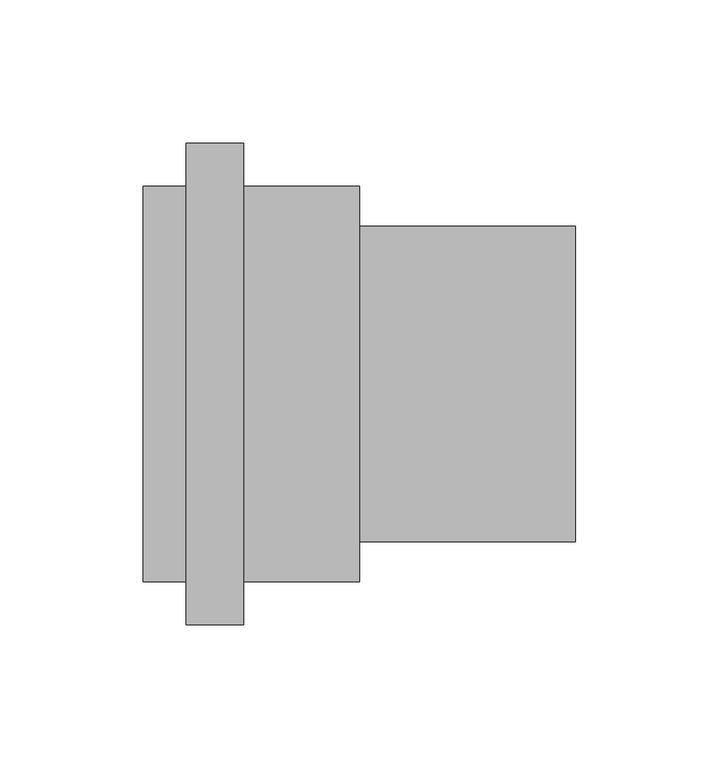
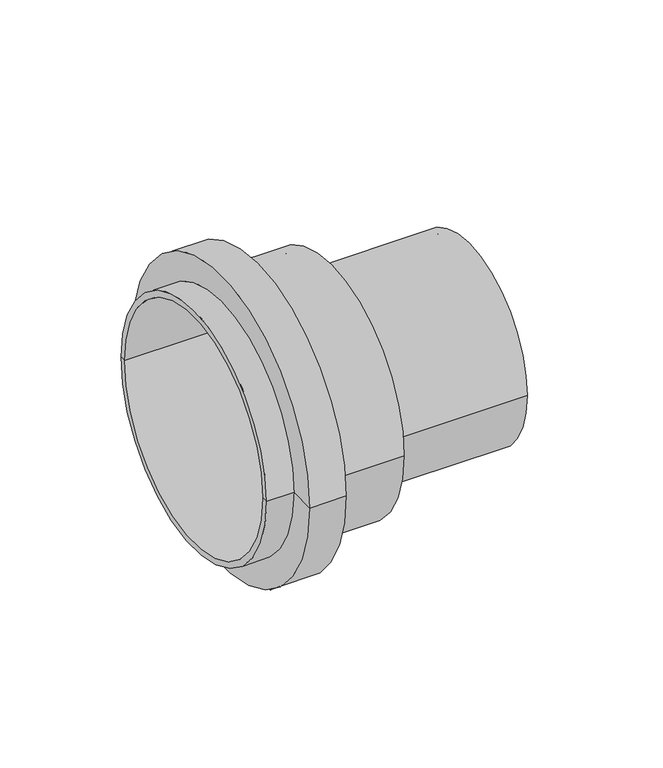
"""IFC4 building model written with IfcOpenShell, lengths in millimetres: pipe fitting geometry, OSMA_KG2000_PPKGUS : Přechodka Kamenina-KG2000."""

from ifc_helpers import new_model, si_unit, frame, origin, place, context, project, spatial, polyline, circle_curve, source, transform, mapped, element, save
from ifc_brep_helpers import plane_surface, cylinder_surface, revolved_surface, advanced_brep


def pipe_fitting_af108f88(model_context):
    return source(origin(), model_context, "Body", "AdvancedBrep", [
        advanced_brep(
        [(-3.4, -51.6, 0.0), (-3.4, 51.6, 0.0), (-3.4, 65.6, 0.0), (-3.4, -65.6, 0.0), (-75.5, 65.6, 0.0), (-75.5, -65.6, 0.0), (75.5, -55.0, 0.0), (75.5, 55.0, 0.0), (75.5, 51.6, 0.0), (75.5, -51.6, 0.0), (-75.5, -69.0, 0.0), (-75.5, 69.0, 0.0), (-60.5, 69.0, 0.0), (-60.5, -69.0, 0.0), (-60.5, 84.0, 0.0), (-60.5, -84.0, 0.0), (-40.5, 84.0, 0.0), (-40.5, -84.0, 0.0), (-40.5, 69.0, 0.0), (-40.5, -69.0, 0.0), (0.0, 69.0, 0.0), (0.0, -69.0, 0.0), (0.0, 55.0, 0.0), (0.0, -55.0, 0.0)],
        [
            (0, 1, circle_curve(frame((-3.4, 0.0, 0.0), z_axis=(1.0, 0.0, 0.0), x_axis=(0.0, 1.0, 0.0)), 51.6)),
            (1, 2),
            (2, 3, circle_curve(frame((-3.4, 0.0, 0.0), z_axis=(-1.0, 0.0, 0.0), x_axis=(0.0, 1.0, 0.0)), 65.6)),
            (3, 0),
            (1, 0, circle_curve(frame((-3.4, 0.0, 0.0), z_axis=(1.0, 0.0, 0.0), x_axis=(0.0, 1.0, 0.0)), 51.6)),
            (3, 2, circle_curve(frame((-3.4, 0.0, 0.0), z_axis=(-1.0, 0.0, 0.0), x_axis=(0.0, 1.0, 0.0)), 65.6)),
            (2, 4),
            (4, 5, circle_curve(frame((-75.5, 0.0, 0.0), z_axis=(-1.0, 0.0, 0.0), x_axis=(0.0, 1.0, 0.0)), 65.6)),
            (5, 3),
            (5, 4, circle_curve(frame((-75.5, 0.0, 0.0), z_axis=(-1.0, 0.0, 0.0), x_axis=(0.0, 1.0, 0.0)), 65.6)),
            (6, 7, circle_curve(frame((75.5, 0.0, 0.0), z_axis=(1.0, 0.0, 0.0), x_axis=(0.0, 1.0, 0.0)), 55.0)),
            (7, 8),
            (8, 9, circle_curve(frame((75.5, 0.0, 0.0), z_axis=(-1.0, 0.0, 0.0), x_axis=(0.0, 1.0, 0.0)), 51.6)),
            (9, 6),
            (7, 6, circle_curve(frame((75.5, 0.0, 0.0), z_axis=(1.0, 0.0, 0.0), x_axis=(0.0, 1.0, 0.0)), 55.0)),
            (9, 8, circle_curve(frame((75.5, 0.0, 0.0), z_axis=(-1.0, 0.0, 0.0), x_axis=(0.0, 1.0, 0.0)), 51.6)),
            (10, 11, circle_curve(frame((-75.5, 0.0, 0.0), z_axis=(1.0, 0.0, 0.0), x_axis=(0.0, 1.0, 0.0)), 69.0)),
            (11, 12),
            (12, 13, circle_curve(frame((-60.5, 0.0, 0.0), z_axis=(-1.0, 0.0, 0.0), x_axis=(0.0, 1.0, 0.0)), 69.0)),
            (13, 10),
            (11, 10, circle_curve(frame((-75.5, 0.0, 0.0), z_axis=(1.0, 0.0, 0.0), x_axis=(0.0, 1.0, 0.0)), 69.0)),
            (13, 12, circle_curve(frame((-60.5, 0.0, 0.0), z_axis=(-1.0, 0.0, 0.0), x_axis=(0.0, 1.0, 0.0)), 69.0)),
            (12, 14),
            (14, 15, circle_curve(frame((-60.5, 0.0, 0.0), z_axis=(-1.0, 0.0, 0.0), x_axis=(0.0, 1.0, 0.0)), 84.0)),
            (15, 13),
            (15, 14, circle_curve(frame((-60.5, 0.0, 0.0), z_axis=(-1.0, 0.0, 0.0), x_axis=(0.0, 1.0, 0.0)), 84.0)),
            (14, 16),
            (16, 17, circle_curve(frame((-40.5, 0.0, 0.0), z_axis=(-1.0, 0.0, 0.0), x_axis=(0.0, 1.0, 0.0)), 84.0)),
            (17, 15),
            (17, 16, circle_curve(frame((-40.5, 0.0, 0.0), z_axis=(-1.0, 0.0, 0.0), x_axis=(0.0, 1.0, 0.0)), 84.0)),
            (16, 18),
            (18, 19, circle_curve(frame((-40.5, 0.0, 0.0), z_axis=(-1.0, 0.0, 0.0), x_axis=(0.0, 1.0, 0.0)), 69.0)),
            (19, 17),
            (19, 18, circle_curve(frame((-40.5, 0.0, 0.0), z_axis=(-1.0, 0.0, 0.0), x_axis=(0.0, 1.0, 0.0)), 69.0)),
            (18, 20),
            (20, 21, circle_curve(frame((0.0, 0.0, 0.0), z_axis=(-1.0, 0.0, 0.0), x_axis=(0.0, 1.0, 0.0)), 69.0)),
            (21, 19),
            (21, 20, circle_curve(frame((0.0, 0.0, 0.0), z_axis=(-1.0, 0.0, 0.0), x_axis=(0.0, 1.0, 0.0)), 69.0)),
            (20, 22),
            (22, 23, circle_curve(frame((0.0, 0.0, 0.0), z_axis=(-1.0, 0.0, 0.0), x_axis=(0.0, 1.0, 0.0)), 55.0)),
            (23, 21),
            (23, 22, circle_curve(frame((0.0, 0.0, 0.0), z_axis=(-1.0, 0.0, 0.0), x_axis=(0.0, 1.0, 0.0)), 55.0)),
            (22, 7),
            (6, 23),
            (4, 11),
            (10, 5),
            (8, 1),
            (0, 9),
        ],
        [
            plane_surface(frame((-3.4, 0.0, 0.0), z_axis=(-1.0, 0.0, 0.0), x_axis=(0.0, 1.0, 0.0))),
            revolved_surface(polyline([(-75.5, 65.6, 0.0), (-3.400000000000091, 65.6, 0.0)]), (2000.0, 0.0, 0.0), (-1.0, 0.0, 0.0)),
            plane_surface(frame((75.5, 0.0, 0.0), z_axis=(1.0, 0.0, 0.0), x_axis=(0.0, 1.0, 0.0))),
            cylinder_surface(frame((2000.0, 0.0, 0.0), z_axis=(-1.0, 0.0, 0.0), x_axis=(0.0, 1.0, 0.0)), 69.0),
            plane_surface(frame((-60.5, 0.0, 0.0), z_axis=(-1.0, 0.0, 0.0), x_axis=(0.0, 1.0, 0.0))),
            cylinder_surface(frame((2000.0, 0.0, 0.0), z_axis=(-1.0, 0.0, 0.0), x_axis=(0.0, 1.0, 0.0)), 84.0),
            plane_surface(frame((-40.5, 0.0, 0.0), z_axis=(1.0, 0.0, 0.0), x_axis=(0.0, 1.0, 0.0))),
            plane_surface(frame((0.0, 0.0, 0.0), z_axis=(1.0, 0.0, 0.0), x_axis=(0.0, 1.0, 0.0))),
            cylinder_surface(frame((2000.0, 0.0, 0.0), z_axis=(-1.0, 0.0, 0.0), x_axis=(0.0, 1.0, 0.0)), 55.0),
            plane_surface(frame((-75.5, 0.0, 0.0), z_axis=(-1.0, 0.0, 0.0), x_axis=(0.0, 1.0, 0.0))),
            revolved_surface(polyline([(-3.400000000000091, 51.6, 0.0), (75.5, 51.6, 0.0)]), (2000.0, 0.0, 0.0), (-1.0, 0.0, 0.0)),
        ],
        [
            (0, [[1, 2, 3, 4]]),
            (0, [[5, -4, 6, -2]]),
            (1, [[-3, 7, 8, 9]]),
            (1, [[-6, -9, 10, -7]]),
            (2, [[11, 12, 13, 14]]),
            (2, [[15, -14, 16, -12]]),
            (3, [[17, 18, 19, 20]]),
            (3, [[21, -20, 22, -18]]),
            (4, [[-19, 23, 24, 25]]),
            (4, [[-22, -25, 26, -23]]),
            (5, [[-24, 27, 28, 29]]),
            (5, [[-26, -29, 30, -27]]),
            (6, [[-28, 31, 32, 33]]),
            (6, [[-30, -33, 34, -31]]),
            (3, [[-32, 35, 36, 37]]),
            (3, [[-34, -37, 38, -35]]),
            (7, [[-36, 39, 40, 41]]),
            (7, [[-38, -41, 42, -39]]),
            (8, [[-40, 43, -11, 44]]),
            (8, [[-42, -44, -15, -43]]),
            (9, [[-8, 45, -17, 46]]),
            (9, [[-10, -46, -21, -45]]),
            (10, [[-13, 47, -1, 48]]),
            (10, [[-16, -48, -5, -47]]),
        ],
    ),
    ])


if __name__ == "__main__":
    model = new_model("IFC4")
    model_context = context("Model", 3, world=origin())
    ifc_project = project(units=[si_unit("LENGTHUNIT", "METRE", prefix="MILLI")], contexts=[model_context])
    site = spatial("IfcSite", under=ifc_project)
    building = spatial("IfcBuilding", under=site)
    placement = place(None, origin())
    pipe_fitting_shape = pipe_fitting_af108f88(model_context)
    element("IfcPipeFitting", 1, ObjectType="OSMA_KG2000_PPKGUS : Přechodka Kamenina-KG2000", at=placement, inside=building, context=model_context, shape_type="MappedRepresentation", body=[
        mapped(pipe_fitting_shape, transform((0.0, 0.0, 0.0), x_axis=(1.0, 0.0, 0.0), y_axis=(0.0, 1.0, 0.0), z_axis=(0.0, 0.0, 1.0))),
    ])
    save(model, "model.ifc")
